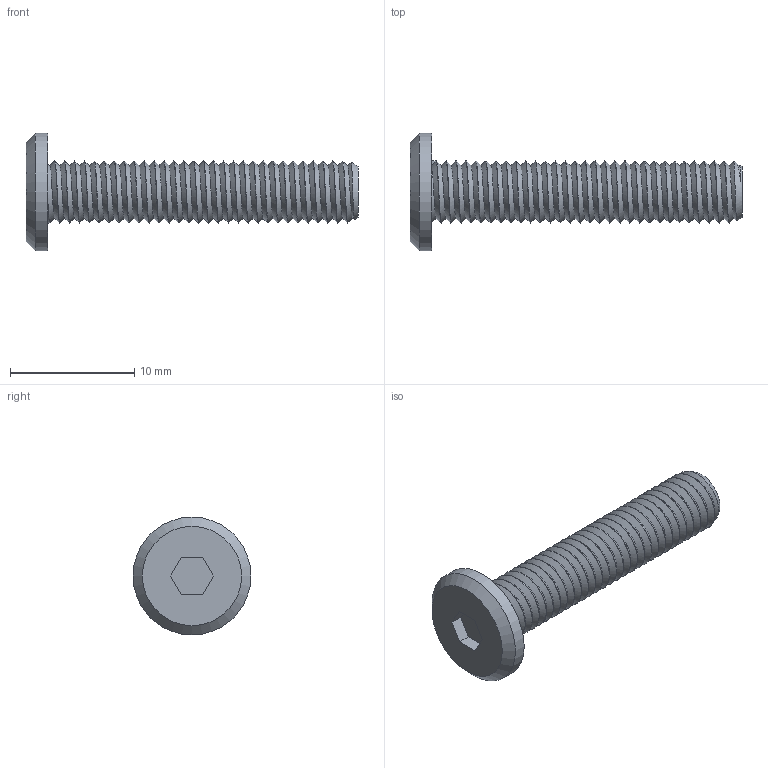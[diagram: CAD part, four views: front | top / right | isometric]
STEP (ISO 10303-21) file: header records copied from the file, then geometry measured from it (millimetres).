
FILE_DESCRIPTION(/* description */ ('STEP AP242 Edition 2','CAx-IF Rec.Pracs.---Representation and Presentation of Product Manufacturing Information (PMI)---4.0---2014-10-13','CAx-IF Rec.Pracs.---3D Tessellated Geometry---0.4---2014-09-14','2;1','CAx-IF Rec.Pracs.---User Defined Attributes---1.5---2016-08-15'),/* implementation_level */ '2;1');
FILE_NAME(/* name */ 'Final Build - M5x25 (6)',/* time_stamp */ '2026-08-31T23:26:17Z',/* author */ (''),/* organization */ (''),/* preprocessor_version */ 'ST-DEVELOPER v20',/* originating_system */ 'ONSHAPE BY PTC INC, 1.220',/* authorisation */ ' ');
FILE_SCHEMA (('AP242_MANAGED_MODEL_BASED_3D_ENGINEERING_MIM_LF { 1 0 10303 442 3 1 4 }'));
Length unit declared in the file: metre
Products named in the file (1): M5x25
Bounding box: 26.75 x 9.5 x 9.5 mm (x, y, z)
Volume: 529 mm3; surface area: 693.8 mm2
Topology: 1 solids, 1 shells, 18 faces, 41 edges, 27 vertices
Faces by surface type: plane 11, cylinder 3, bspline 2, cone 2
Full cylindrical faces by diameter (mm): 9.5 x1
Entity records: 8136 total; most frequent: CARTESIAN_POINT 7750, ORIENTED_EDGE 72, DIRECTION 68, EDGE_CURVE 36, VERTEX_POINT 25, AXIS2_PLACEMENT_3D 24, EDGE_LOOP 23, FACE_BOUND 23
